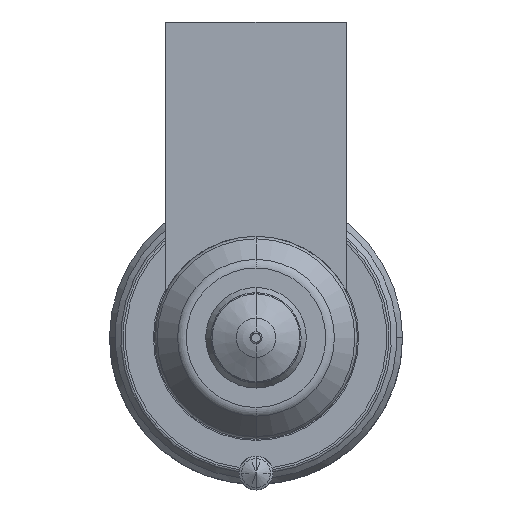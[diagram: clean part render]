
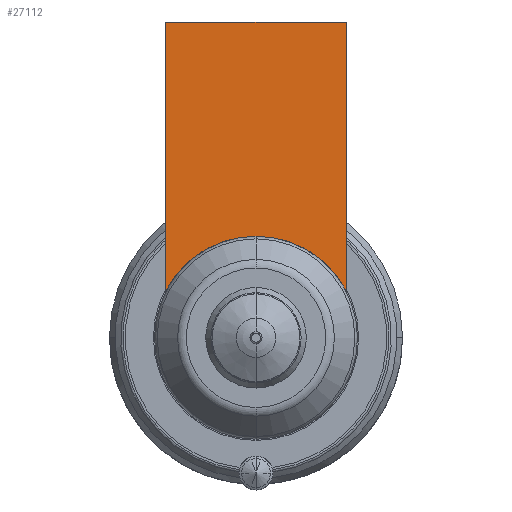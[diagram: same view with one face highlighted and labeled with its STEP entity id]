
A CAD part, front view. The second image highlights one B-rep face of the part: STEP entity #27112.
In plain terms, the highlighted planar face has unit normal (0, -1, 0).
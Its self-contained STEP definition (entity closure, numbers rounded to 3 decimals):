
#26223=DIRECTION('',(1.,0.,0.));
#26224=VECTOR('',#26223,16.);
#26225=CARTESIAN_POINT('',(-8.,-54.,28.));
#26226=LINE('',#26225,#26224);
#26231=CARTESIAN_POINT('',(0.,-54.,0.));
#26232=DIRECTION('',(0.,-1.,0.));
#26233=DIRECTION('',(0.889,0.,0.458));
#26234=AXIS2_PLACEMENT_3D('',#26231,#26232,#26233);
#26239=CARTESIAN_POINT('',(0.,-54.,0.));
#26240=DIRECTION('',(0.,-1.,0.));
#26241=DIRECTION('',(0.,0.,1.));
#26242=AXIS2_PLACEMENT_3D('',#26239,#26240,#26241);
#26268=DIRECTION('',(0.,0.,-1.));
#26269=VECTOR('',#26268,23.877);
#26270=CARTESIAN_POINT('',(-8.,-54.,28.));
#26271=LINE('',#26270,#26269);
#26956=DIRECTION('',(0.,0.,-1.));
#26957=VECTOR('',#26956,23.877);
#26958=CARTESIAN_POINT('',(8.,-54.,28.));
#26959=LINE('',#26958,#26957);
#27009=CARTESIAN_POINT('',(-8.,-54.,28.));
#27010=VERTEX_POINT('',#27009);
#27015=CARTESIAN_POINT('',(8.,-54.,28.));
#27016=VERTEX_POINT('',#27015);
#27019=CARTESIAN_POINT('',(-8.,-54.,4.123));
#27020=VERTEX_POINT('',#27019);
#27023=CARTESIAN_POINT('',(8.,-54.,4.123));
#27024=VERTEX_POINT('',#27023);
#27093=CARTESIAN_POINT('',(0.,-54.,9.));
#27094=VERTEX_POINT('',#27093);
#27095=CARTESIAN_POINT('',(0.,-54.,9.));
#27096=DIRECTION('',(0.,1.,0.));
#27097=DIRECTION('',(0.,0.,-1.));
#27098=AXIS2_PLACEMENT_3D('',#27095,#27096,#27097);
#27099=PLANE('',#27098);
#27101=ORIENTED_EDGE('',*,*,#27100,.F.);
#27103=ORIENTED_EDGE('',*,*,#27102,.T.);
#27105=ORIENTED_EDGE('',*,*,#27104,.T.);
#27107=ORIENTED_EDGE('',*,*,#27106,.T.);
#27109=ORIENTED_EDGE('',*,*,#27108,.T.);
#27110=EDGE_LOOP('',(#27101,#27103,#27105,#27107,#27109));
#27111=FACE_OUTER_BOUND('',#27110,.F.);
#27112=ADVANCED_FACE('',(#27111),#27099,.F.);
#26235=CIRCLE('',#26234,9.);
#26243=CIRCLE('',#26242,9.);
#27100=EDGE_CURVE('',#27010,#27020,#26271,.T.);
#27102=EDGE_CURVE('',#27010,#27016,#26226,.T.);
#27104=EDGE_CURVE('',#27016,#27024,#26959,.T.);
#27106=EDGE_CURVE('',#27024,#27094,#26235,.T.);
#27108=EDGE_CURVE('',#27094,#27020,#26243,.T.);
